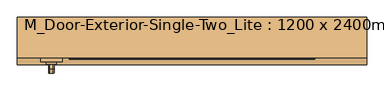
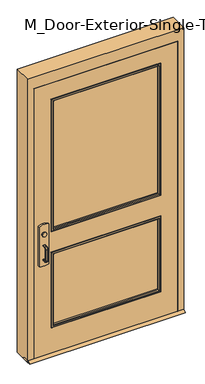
"""IFC4 building model written with IfcOpenShell, lengths in millimetres: door geometry, M_Door-Exterior-Single-Two_Lite : 1200 x 2400mm."""

from ifc_helpers import new_model, si_unit, point, frame, frame_2d, origin, place, context, project, spatial, polyline, circle_curve, ellipse_curve, trimmed, segment, composite_curve, outline, extrude, faceted_brep, source, transform, mapped, element, save
from ifc_brep_helpers import plane_surface, cylinder_surface, revolved_surface, advanced_brep


def m_door_exterior_single_two_lite_1200_x_2400mm_6ab66c40(model_context):
    return source(origin(), model_context, "Body", "SolidModel", [
        extrude(outline(polyline([(-111.35, 15.0), (-85.95, 0.0), (-181.75, 0.0), (-156.35, 15.0), (-111.35, 15.0)])), frame((-650.0, 0.0, 0.0), z_axis=(1.0, 0.0, 0.0), x_axis=(0.0, 1.0, 0.0)), (0.0, 0.0, 1.0), 1300.0),
        extrude(outline(polyline([(198.95, -73.25), (198.95, -79.6), (-492.05, -79.6), (-492.05, -73.25), (198.95, -73.25)])), frame((0.0, 0.0, 974.6), z_axis=(0.0, 0.0, 1.0), x_axis=(1.0, 0.0, 0.0)), (0.0, 0.0, 1.0), 50.8),
        advanced_brep(
        [(-555.55, -79.6, 1025.4), (-492.05, -79.6, 1025.4), (544.45, -79.6, 1025.4), (544.45, -79.6, 974.6), (-492.05, -79.6, 974.6), (-555.55, -79.6, 974.6), (544.45, -111.35, 1025.4), (-492.05, -111.35, 1025.4), (-492.05, -111.35, 1088.9), (-511.1, -111.35, 1107.95), (-536.5, -111.35, 1107.95), (-555.55, -111.35, 1088.9), (-555.55, -111.35, 911.1), (-536.5, -111.35, 892.05), (-511.1, -111.35, 892.05), (-492.05, -111.35, 911.1), (-492.05, -111.35, 974.6), (544.45, -111.35, 974.6), (-555.55, -82.7752467, 1025.4), (-492.05, -82.7752467, 1025.4), (-555.55, -82.7752467, 974.6), (-555.55, -87.7854269, 911.1), (-555.55, -87.7854269, 1088.9), (-492.05, -82.7752467, 974.6), (-492.05, -87.7854269, 1088.9), (-492.05, -87.7854269, 911.1), (-511.1, -89.288481, 1107.95), (-536.5, -89.288481, 1107.95), (-536.5, -89.288481, 892.05), (-511.1, -89.288481, 892.05)],
        [
            (0, 1),
            (1, 2),
            (2, 3),
            (3, 4),
            (4, 5),
            (5, 0),
            (6, 7),
            (7, 8),
            (8, 9, circle_curve(frame((-511.1, -111.35, 1088.9), z_axis=(0.0, -1.0, 0.0), x_axis=(1.0, 0.0, 0.0)), 19.05)),
            (9, 10),
            (10, 11, circle_curve(frame((-536.5, -111.35, 1088.9), z_axis=(0.0, -1.0, 0.0), x_axis=(1.0, 0.0, 0.0)), 19.05)),
            (11, 12),
            (12, 13, circle_curve(frame((-536.5, -111.35, 911.1), z_axis=(0.0, -1.0, 0.0), x_axis=(1.0, 0.0, 0.0)), 19.05)),
            (13, 14),
            (14, 15, circle_curve(frame((-511.1, -111.35, 911.1), z_axis=(0.0, -1.0, 0.0), x_axis=(1.0, 0.0, 0.0)), 19.05)),
            (15, 16),
            (16, 17),
            (17, 6),
            (0, 18),
            (18, 19),
            (19, 7),
            (6, 2),
            (5, 20),
            (20, 21),
            (21, 12),
            (11, 22),
            (22, 18),
            (16, 23),
            (23, 20),
            (3, 17),
            (19, 24),
            (24, 8),
            (15, 25),
            (25, 23),
            (9, 26),
            (26, 27),
            (27, 10),
            (13, 28),
            (28, 29),
            (29, 14),
            (29, 25, ellipse_curve(frame((-511.1, -87.7854269, 911.1), z_axis=(0.0, -0.9969018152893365, 0.07865602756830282), x_axis=(0.0, 0.07865602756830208, 0.9969018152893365)), 19.1092038, 19.05)),
            (24, 26, ellipse_curve(frame((-511.1, -87.7854269, 1088.9), z_axis=(0.0, -0.9969018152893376, -0.07865602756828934), x_axis=(0.0, 0.078656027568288, -0.9969018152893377)), 19.1092038, 19.05)),
            (27, 22, ellipse_curve(frame((-536.5, -87.7854269, 1088.9), z_axis=(0.0, -0.9969018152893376, -0.07865602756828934), x_axis=(0.0, 0.078656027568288, -0.9969018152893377)), 19.1092038, 19.05)),
            (21, 28, ellipse_curve(frame((-536.5, -87.7854269, 911.1), z_axis=(0.0, -0.9969018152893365, 0.07865602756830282), x_axis=(0.0, 0.07865602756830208, 0.9969018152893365)), 19.1092038, 19.05)),
        ],
        [
            plane_surface(frame((-555.55, -79.6, 1025.4), z_axis=(0.0, 1.0, 0.0), x_axis=(-1.0, 0.0, 0.0))),
            plane_surface(frame((-555.55, -111.35, 1025.4), z_axis=(0.0, -1.0, 0.0), x_axis=(1.0, 0.0, 0.0))),
            plane_surface(frame((544.45, -79.6, 1025.4), z_axis=(0.0, 0.0, 1.0), x_axis=(0.0, -1.0, 0.0))),
            plane_surface(frame((-555.55, -79.6, 1025.4), z_axis=(-1.0, 0.0, 0.0), x_axis=(0.0, -1.0, 0.0))),
            plane_surface(frame((-555.55, -79.6, 974.6), z_axis=(0.0, 0.0, -1.0), x_axis=(0.0, -1.0, 0.0))),
            plane_surface(frame((544.45, -79.6, 974.6), z_axis=(1.0, 0.0, 0.0), x_axis=(0.0, -1.0, 0.0))),
            plane_surface(frame((-492.05, -82.7752467, 911.1), z_axis=(1.0, 0.0, 0.0), x_axis=(0.0, -1.0, 0.0))),
            plane_surface(frame((-511.1, -82.7752467, 1107.95), z_axis=(0.0, 0.0, 1.0), x_axis=(0.0, -1.0, 0.0))),
            plane_surface(frame((-536.5, -82.7752467, 892.05), z_axis=(0.0, 0.0, -1.0), x_axis=(0.0, -1.0, 0.0))),
            cylinder_surface(frame((-511.1, -111.35, 911.1), z_axis=(0.0, 1.0, 0.0), x_axis=(1.0, 0.0, 0.0)), 19.05),
            cylinder_surface(frame((-511.1, -111.35, 1088.9), z_axis=(0.0, 1.0, 0.0), x_axis=(1.0, 0.0, 0.0)), 19.05),
            cylinder_surface(frame((-536.5, -111.35, 1088.9), z_axis=(0.0, 1.0, 0.0), x_axis=(1.0, 0.0, 0.0)), 19.05),
            cylinder_surface(frame((-536.5, -111.35, 911.1), z_axis=(0.0, 1.0, 0.0), x_axis=(1.0, 0.0, 0.0)), 19.05),
            plane_surface(frame((-492.05, -82.7752467, 1025.4), z_axis=(0.0, 0.9969018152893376, 0.07865602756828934), x_axis=(-1.0, 0.0, 0.0))),
            plane_surface(frame((-492.05, -89.288481, 892.05), z_axis=(0.0, 0.9969018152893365, -0.07865602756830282), x_axis=(-1.0, 0.0, 0.0))),
        ],
        [
            (0, [[1, 2, 3, 4, 5, 6]]),
            (1, [[7, 8, 9, 10, 11, 12, 13, 14, 15, 16, 17, 18]]),
            (2, [[-2, -1, 19, 20, 21, -7, 22]]),
            (3, [[23, 24, 25, -12, 26, 27, -19, -6]]),
            (4, [[-17, 28, 29, -23, -5, -4, 30]]),
            (5, [[-22, -18, -30, -3]]),
            (6, [[-21, 31, 32, -8]]),
            (6, [[33, 34, -28, -16]]),
            (7, [[35, 36, 37, -10]]),
            (8, [[38, 39, 40, -14]]),
            (9, [[-40, 41, -33, -15]]),
            (10, [[-32, 42, -35, -9]]),
            (11, [[-37, 43, -26, -11]]),
            (12, [[-25, 44, -38, -13]]),
            (13, [[-27, -43, -36, -42, -31, -20]]),
            (14, [[-29, -34, -41, -39, -44, -24]]),
        ],
    ),
        advanced_brep(
        [(-533.8, -171.35, 1001.190625), (-530.228125, -171.35, 1004.7625), (-517.371875, -171.35, 1004.7625), (-513.8, -171.35, 1001.190625), (-513.8, -171.35, 998.8090406), (-517.3715406, -171.35, 995.2375), (-530.228125, -171.35, 995.2375), (-533.8, -171.35, 998.809375), (-533.8, -171.35, 874.609375), (-533.8, -171.35, 876.990625), (-530.228125, -171.35, 880.5625), (-517.3715406, -171.35, 880.5625), (-513.8, -171.35, 876.9909594), (-513.8, -171.35, 874.609375), (-517.371875, -171.35, 871.0375), (-530.228125, -171.35, 871.0375), (-533.8, -196.75, 998.809375), (-533.8, -208.259375, 987.3), (-533.8, -208.259375, 888.5), (-533.8, -196.75, 876.990625), (-533.8, -196.75, 874.609375), (-533.8, -210.640625, 888.5), (-533.8, -210.640625, 987.3), (-533.8, -196.75, 1001.190625), (-530.228125, -196.75, 995.2375), (-517.3715406, -196.75, 995.2375), (-513.8, -196.75, 998.8090406), (-513.8, -196.75, 1001.190625), (-513.8, -210.640625, 987.3), (-513.8, -210.640625, 888.5), (-513.8, -196.75, 874.609375), (-513.8, -196.75, 876.9909594), (-513.8, -208.2590406, 888.5), (-513.8, -208.2590406, 987.3), (-517.371875, -196.75, 1004.7625), (-530.228125, -196.75, 1004.7625), (-530.228125, -204.6875, 987.3), (-517.3715406, -204.6875, 987.3), (-517.371875, -214.2125, 987.3), (-530.228125, -214.2125, 987.3), (-530.228125, -204.6875, 888.5), (-517.3715406, -204.6875, 888.5), (-517.371875, -214.2125, 888.5), (-530.228125, -214.2125, 888.5), (-530.228125, -196.75, 880.5625), (-517.3715406, -196.75, 880.5625), (-517.371875, -196.75, 871.0375), (-530.228125, -196.75, 871.0375)],
        [
            (0, 1, circle_curve(frame((-530.228125, -171.35, 1001.190625), z_axis=(0.0, 1.0, 0.0), x_axis=(0.0, 0.0, 1.0)), 3.571875)),
            (1, 2),
            (2, 3, circle_curve(frame((-517.371875, -171.35, 1001.190625), z_axis=(0.0, 1.0, 0.0), x_axis=(0.0, 0.0, 1.0)), 3.571875)),
            (3, 4),
            (4, 5, circle_curve(frame((-517.3715406, -171.35, 998.8090406), z_axis=(0.0, 1.0, 0.0), x_axis=(0.0, 0.0, 1.0)), 3.5715406)),
            (5, 6),
            (6, 7, circle_curve(frame((-530.228125, -171.35, 998.809375), z_axis=(0.0, 1.0, 0.0), x_axis=(0.0, 0.0, 1.0)), 3.571875)),
            (7, 0),
            (8, 9),
            (9, 10, circle_curve(frame((-530.228125, -171.35, 876.990625), z_axis=(0.0, 1.0, 0.0), x_axis=(0.0, 0.0, -1.0)), 3.571875)),
            (10, 11),
            (11, 12, circle_curve(frame((-517.3715406, -171.35, 876.9909594), z_axis=(0.0, 1.0, 0.0), x_axis=(0.0, 0.0, -1.0)), 3.5715406)),
            (12, 13),
            (13, 14, circle_curve(frame((-517.371875, -171.35, 874.609375), z_axis=(0.0, 1.0, 0.0), x_axis=(0.0, 0.0, -1.0)), 3.571875)),
            (14, 15),
            (15, 8, circle_curve(frame((-530.228125, -171.35, 874.609375), z_axis=(0.0, 1.0, 0.0), x_axis=(0.0, 0.0, -1.0)), 3.571875)),
            (7, 16),
            (16, 17, circle_curve(frame((-533.8, -196.75, 987.3), z_axis=(1.0, 0.0, 0.0), x_axis=(0.0, 0.0, 1.0)), 11.509375)),
            (17, 18),
            (18, 19, circle_curve(frame((-533.8, -196.75, 888.5), z_axis=(1.0, 0.0, 0.0), x_axis=(0.0, -1.0, 0.0)), 11.509375)),
            (19, 9),
            (8, 20),
            (20, 21, circle_curve(frame((-533.8, -196.75, 888.5), z_axis=(-1.0, 0.0, 0.0), x_axis=(0.0, -1.0, 0.0)), 13.890625)),
            (21, 22),
            (22, 23, circle_curve(frame((-533.8, -196.75, 987.3), z_axis=(-1.0, 0.0, 0.0), x_axis=(0.0, 0.0, 1.0)), 13.890625)),
            (23, 0),
            (6, 24),
            (24, 16, circle_curve(frame((-530.228125, -196.75, 998.809375), z_axis=(0.0, 1.0, 0.0), x_axis=(0.0, 0.0, 1.0)), 3.571875)),
            (5, 25),
            (25, 24),
            (4, 26),
            (26, 25, circle_curve(frame((-517.3715406, -196.75, 998.8090406), z_axis=(0.0, 1.0, 0.0), x_axis=(0.0, 0.0, 1.0)), 3.5715406)),
            (3, 27),
            (27, 28, circle_curve(frame((-513.8, -196.75, 987.3), z_axis=(1.0, 0.0, 0.0), x_axis=(0.0, 0.0, 1.0)), 13.890625)),
            (28, 29),
            (29, 30, circle_curve(frame((-513.8, -196.75, 888.5), z_axis=(1.0, 0.0, 0.0), x_axis=(0.0, -1.0, 0.0)), 13.890625)),
            (30, 13),
            (12, 31),
            (31, 32, circle_curve(frame((-513.8, -196.75, 888.5), z_axis=(-1.0, 0.0, 0.0), x_axis=(0.0, -1.0, 0.0)), 11.5090406)),
            (32, 33),
            (33, 26, circle_curve(frame((-513.8, -196.75, 987.3), z_axis=(-1.0, 0.0, 0.0), x_axis=(0.0, 0.0, 1.0)), 11.5090406)),
            (2, 34),
            (34, 27, circle_curve(frame((-517.371875, -196.75, 1001.190625), z_axis=(0.0, 1.0, 0.0), x_axis=(0.0, 0.0, 1.0)), 3.571875)),
            (1, 35),
            (35, 34),
            (23, 35, circle_curve(frame((-530.228125, -196.75, 1001.190625), z_axis=(0.0, 1.0, 0.0), x_axis=(0.0, 0.0, 1.0)), 3.571875)),
            (36, 17, circle_curve(frame((-530.228125, -208.259375, 987.3), z_axis=(0.0, 0.0, 1.0), x_axis=(0.0, -1.0, 0.0)), 3.571875)),
            (24, 36, circle_curve(frame((-530.228125, -196.75, 987.3), z_axis=(1.0, 0.0, 0.0), x_axis=(0.0, 0.0, 1.0)), 7.9375)),
            (37, 36),
            (25, 37, circle_curve(frame((-517.3715406, -196.75, 987.3), z_axis=(1.0, 0.0, 0.0), x_axis=(0.0, 0.0, 1.0)), 7.9375)),
            (33, 37, circle_curve(frame((-517.3715406, -208.2590406, 987.3), z_axis=(0.0, 0.0, 1.0), x_axis=(0.0, -1.0, 0.0)), 3.5715406)),
            (38, 28, circle_curve(frame((-517.371875, -210.640625, 987.3), z_axis=(0.0, 0.0, 1.0), x_axis=(0.0, -1.0, 0.0)), 3.571875)),
            (34, 38, circle_curve(frame((-517.371875, -196.75, 987.3), z_axis=(1.0, 0.0, 0.0), x_axis=(0.0, 0.0, 1.0)), 17.4625)),
            (39, 38),
            (35, 39, circle_curve(frame((-530.228125, -196.75, 987.3), z_axis=(1.0, 0.0, 0.0), x_axis=(0.0, 0.0, 1.0)), 17.4625)),
            (22, 39, circle_curve(frame((-530.228125, -210.640625, 987.3), z_axis=(0.0, 0.0, 1.0), x_axis=(0.0, -1.0, 0.0)), 3.571875)),
            (36, 40),
            (40, 18, circle_curve(frame((-530.228125, -208.259375, 888.5), z_axis=(0.0, 0.0, 1.0), x_axis=(0.0, -1.0, 0.0)), 3.571875)),
            (37, 41),
            (41, 40),
            (32, 41, circle_curve(frame((-517.3715406, -208.2590406, 888.5), z_axis=(0.0, 0.0, 1.0), x_axis=(0.0, -1.0, 0.0)), 3.5715406)),
            (38, 42),
            (42, 29, circle_curve(frame((-517.371875, -210.640625, 888.5), z_axis=(0.0, 0.0, 1.0), x_axis=(0.0, -1.0, 0.0)), 3.571875)),
            (39, 43),
            (43, 42),
            (21, 43, circle_curve(frame((-530.228125, -210.640625, 888.5), z_axis=(0.0, 0.0, 1.0), x_axis=(0.0, -1.0, 0.0)), 3.571875)),
            (44, 19, circle_curve(frame((-530.228125, -196.75, 876.990625), z_axis=(0.0, -1.0, 0.0), x_axis=(0.0, 0.0, -1.0)), 3.571875)),
            (40, 44, circle_curve(frame((-530.228125, -196.75, 888.5), z_axis=(1.0, 0.0, 0.0), x_axis=(0.0, -1.0, 0.0)), 7.9375)),
            (45, 44),
            (41, 45, circle_curve(frame((-517.3715406, -196.75, 888.5), z_axis=(1.0, 0.0, 0.0), x_axis=(0.0, -1.0, 0.0)), 7.9375)),
            (31, 45, circle_curve(frame((-517.3715406, -196.75, 876.9909594), z_axis=(0.0, -1.0, 0.0), x_axis=(0.0, 0.0, -1.0)), 3.5715406)),
            (46, 30, circle_curve(frame((-517.371875, -196.75, 874.609375), z_axis=(0.0, -1.0, 0.0), x_axis=(0.0, 0.0, -1.0)), 3.571875)),
            (42, 46, circle_curve(frame((-517.371875, -196.75, 888.5), z_axis=(1.0, 0.0, 0.0), x_axis=(0.0, -1.0, 0.0)), 17.4625)),
            (47, 46),
            (43, 47, circle_curve(frame((-530.228125, -196.75, 888.5), z_axis=(1.0, 0.0, 0.0), x_axis=(0.0, -1.0, 0.0)), 17.4625)),
            (20, 47, circle_curve(frame((-530.228125, -196.75, 874.609375), z_axis=(0.0, -1.0, 0.0), x_axis=(0.0, 0.0, -1.0)), 3.571875)),
            (44, 10),
            (45, 11),
            (46, 14),
            (47, 15),
        ],
        [
            plane_surface(frame((-523.8, -171.35, 1000.0), z_axis=(0.0, 1.0, 0.0), x_axis=(1.0, 0.0, 0.0))),
            plane_surface(frame((-523.8, -171.35, 875.8), z_axis=(0.0, 1.0, 0.0), x_axis=(1.0, 0.0, 0.0))),
            plane_surface(frame((-533.8, -171.35, 1001.190625), z_axis=(-1.0, 0.0, 0.0), x_axis=(0.0, -1.0, 0.0))),
            cylinder_surface(frame((-530.228125, -171.35, 998.809375), z_axis=(0.0, 1.0, 0.0), x_axis=(0.0, 0.0, 1.0)), 3.571875),
            plane_surface(frame((-530.228125, -171.35, 995.2375), z_axis=(0.0, 0.0, -1.0), x_axis=(0.0, -1.0, 0.0))),
            cylinder_surface(frame((-517.3715406, -171.35, 998.8090406), z_axis=(0.0, 1.0, 0.0), x_axis=(0.0, 0.0, 1.0)), 3.5715406),
            plane_surface(frame((-513.8, -171.35, 998.8090406), z_axis=(1.0, 0.0, 0.0), x_axis=(0.0, -1.0, 0.0))),
            cylinder_surface(frame((-517.371875, -171.35, 1001.190625), z_axis=(0.0, 1.0, 0.0), x_axis=(0.0, 0.0, 1.0)), 3.571875),
            plane_surface(frame((-517.371875, -171.35, 1004.7625), z_axis=(0.0, 0.0, 1.0), x_axis=(0.0, -1.0, 0.0))),
            cylinder_surface(frame((-530.228125, -171.35, 1001.190625), z_axis=(0.0, 1.0, 0.0), x_axis=(0.0, 0.0, 1.0)), 3.571875),
            revolved_surface(trimmed(ellipse_curve(frame((-530.228125, -196.75, 998.809375), z_axis=(0.0, -1.0, 0.0), x_axis=(0.0, 0.0, 1.0)), 3.571875, 3.571875), [point((-533.8, -196.75, 998.809375))], [point((-530.228125, -196.75, 995.2375))], True, "CARTESIAN"), (-523.8, -196.75, 987.3), (-1.0, 0.0, 0.0)),
            revolved_surface(polyline([(-530.228125, -196.75, 995.2375), (-517.3715406, -196.75, 995.2375)]), (-523.8, -196.75, 987.3), (-1.0, 0.0, 0.0)),
            revolved_surface(trimmed(ellipse_curve(frame((-517.3715406, -196.75, 998.8090406), z_axis=(0.0, -1.0, 0.0), x_axis=(0.0, 0.0, 1.0)), 3.5715406, 3.5715406), [point((-517.3715406, -196.75, 995.2375))], [point((-513.8, -196.75, 998.8090406))], True, "CARTESIAN"), (-523.8, -196.75, 987.3), (-1.0, 0.0, 0.0)),
            revolved_surface(trimmed(ellipse_curve(frame((-517.371875, -196.75, 1001.190625), z_axis=(0.0, -1.0, 0.0), x_axis=(0.0, 0.0, 1.0)), 3.571875, 3.571875), [point((-513.8, -196.75, 1001.190625))], [point((-517.371875, -196.75, 1004.7625))], True, "CARTESIAN"), (-523.8, -196.75, 987.3), (-1.0, 0.0, 0.0)),
            cylinder_surface(frame((-523.8, -196.75, 987.3), z_axis=(-1.0, 0.0, 0.0), x_axis=(0.0, 0.0, 1.0)), 17.4625),
            revolved_surface(trimmed(ellipse_curve(frame((-530.228125, -196.75, 1001.190625), z_axis=(0.0, -1.0, 0.0), x_axis=(0.0, 0.0, 1.0)), 3.571875, 3.571875), [point((-530.228125, -196.75, 1004.7625))], [point((-533.8, -196.75, 1001.190625))], True, "CARTESIAN"), (-523.8, -196.75, 987.3), (-1.0, 0.0, 0.0)),
            cylinder_surface(frame((-530.228125, -208.259375, 987.3), z_axis=(0.0, 0.0, 1.0), x_axis=(0.0, -1.0, 0.0)), 3.571875),
            plane_surface(frame((-530.228125, -204.6875, 987.3), z_axis=(0.0, 1.0, 0.0), x_axis=(0.0, 0.0, -1.0))),
            cylinder_surface(frame((-517.3715406, -208.2590406, 987.3), z_axis=(0.0, 0.0, 1.0), x_axis=(0.0, -1.0, 0.0)), 3.5715406),
            cylinder_surface(frame((-517.371875, -210.640625, 987.3), z_axis=(0.0, 0.0, 1.0), x_axis=(0.0, -1.0, 0.0)), 3.571875),
            plane_surface(frame((-517.371875, -214.2125, 987.3), z_axis=(0.0, -1.0, 0.0), x_axis=(0.0, 0.0, -1.0))),
            cylinder_surface(frame((-530.228125, -210.640625, 987.3), z_axis=(0.0, 0.0, 1.0), x_axis=(0.0, -1.0, 0.0)), 3.571875),
            revolved_surface(trimmed(ellipse_curve(frame((-530.228125, -208.259375, 888.5), z_axis=(0.0, 0.0, -1.0), x_axis=(0.0, -1.0, 0.0)), 3.571875, 3.571875), [point((-533.8, -208.259375, 888.5))], [point((-530.228125, -204.6875, 888.5))], True, "CARTESIAN"), (-523.8, -196.75, 888.5), (-1.0, 0.0, 0.0)),
            revolved_surface(polyline([(-530.228125, -204.6875, 888.5), (-517.3715406, -204.6875, 888.5)]), (-523.8, -196.75, 888.5), (-1.0, 0.0, 0.0)),
            revolved_surface(trimmed(ellipse_curve(frame((-517.3715406, -208.2590406, 888.5), z_axis=(0.0, 0.0, -1.0), x_axis=(0.0, -1.0, 0.0)), 3.5715406, 3.5715406), [point((-517.3715406, -204.6875, 888.5))], [point((-513.8, -208.2590406, 888.5))], True, "CARTESIAN"), (-523.8, -196.75, 888.5), (-1.0, 0.0, 0.0)),
            revolved_surface(trimmed(ellipse_curve(frame((-517.371875, -210.640625, 888.5), z_axis=(0.0, 0.0, -1.0), x_axis=(0.0, -1.0, 0.0)), 3.571875, 3.571875), [point((-513.8, -210.640625, 888.5))], [point((-517.371875, -214.2125, 888.5))], True, "CARTESIAN"), (-523.8, -196.75, 888.5), (-1.0, 0.0, 0.0)),
            cylinder_surface(frame((-523.8, -196.75, 888.5), z_axis=(-1.0, 0.0, 0.0), x_axis=(0.0, -1.0, 0.0)), 17.4625),
            revolved_surface(trimmed(ellipse_curve(frame((-530.228125, -210.640625, 888.5), z_axis=(0.0, 0.0, -1.0), x_axis=(0.0, -1.0, 0.0)), 3.571875, 3.571875), [point((-530.228125, -214.2125, 888.5))], [point((-533.8, -210.640625, 888.5))], True, "CARTESIAN"), (-523.8, -196.75, 888.5), (-1.0, 0.0, 0.0)),
            cylinder_surface(frame((-530.228125, -196.75, 876.990625), z_axis=(0.0, -1.0, 0.0), x_axis=(0.0, 0.0, -1.0)), 3.571875),
            plane_surface(frame((-530.228125, -196.75, 880.5625), z_axis=(0.0, 0.0, 1.0), x_axis=(0.0, 1.0, 0.0))),
            cylinder_surface(frame((-517.3715406, -196.75, 876.9909594), z_axis=(0.0, -1.0, 0.0), x_axis=(0.0, 0.0, -1.0)), 3.5715406),
            cylinder_surface(frame((-517.371875, -196.75, 874.609375), z_axis=(0.0, -1.0, 0.0), x_axis=(0.0, 0.0, -1.0)), 3.571875),
            plane_surface(frame((-517.371875, -196.75, 871.0375), z_axis=(0.0, 0.0, -1.0), x_axis=(0.0, 1.0, 0.0))),
            cylinder_surface(frame((-530.228125, -196.75, 874.609375), z_axis=(0.0, -1.0, 0.0), x_axis=(0.0, 0.0, -1.0)), 3.571875),
        ],
        [
            (0, [[1, 2, 3, 4, 5, 6, 7, 8]]),
            (1, [[9, 10, 11, 12, 13, 14, 15, 16]]),
            (2, [[17, 18, 19, 20, 21, -9, 22, 23, 24, 25, 26, -8]]),
            (3, [[27, 28, -17, -7]]),
            (4, [[29, 30, -27, -6]]),
            (5, [[31, 32, -29, -5]]),
            (6, [[33, 34, 35, 36, 37, -13, 38, 39, 40, 41, -31, -4]]),
            (7, [[42, 43, -33, -3]]),
            (8, [[44, 45, -42, -2]]),
            (9, [[-26, 46, -44, -1]]),
            (10, [[47, -18, -28, 48]]),
            (11, [[49, -48, -30, 50]]),
            (12, [[51, -50, -32, -41]]),
            (13, [[52, -34, -43, 53]]),
            (14, [[54, -53, -45, 55]]),
            (15, [[56, -55, -46, -25]]),
            (16, [[57, 58, -19, -47]]),
            (17, [[59, 60, -57, -49]]),
            (18, [[-40, 61, -59, -51]]),
            (19, [[62, 63, -35, -52]]),
            (20, [[64, 65, -62, -54]]),
            (21, [[-24, 66, -64, -56]]),
            (22, [[67, -20, -58, 68]]),
            (23, [[69, -68, -60, 70]]),
            (24, [[71, -70, -61, -39]]),
            (25, [[72, -36, -63, 73]]),
            (26, [[74, -73, -65, 75]]),
            (27, [[76, -75, -66, -23]]),
            (28, [[77, -10, -21, -67]]),
            (29, [[78, -11, -77, -69]]),
            (30, [[-38, -12, -78, -71]]),
            (31, [[79, -14, -37, -72]]),
            (32, [[80, -15, -79, -74]]),
            (33, [[-22, -16, -80, -76]]),
        ],
    ),
        extrude(outline(composite_curve([segment(trimmed(circle_curve(frame_2d((1098.8, -523.8)), 19.0), [point((1098.8, -542.8))], [point((1098.8, -504.8))], False, "CARTESIAN"), True, "CONTINUOUS"), segment(trimmed(circle_curve(frame_2d((1098.8, -523.8)), 19.0), [point((1098.8, -504.8))], [point((1098.8, -542.8))], False, "CARTESIAN"), True, "CONTINUOUS")], self_intersect=False)), frame((0.0, -180.08125, 0.0), z_axis=(0.0, 1.0, 0.0), x_axis=(0.0, 0.0, 1.0)), (0.0, 0.0, 1.0), 8.73125),
        extrude(outline(composite_curve([segment(trimmed(circle_curve(frame_2d((1094.2338574, -523.8)), 90.1286291), [point((1175.0, -483.8))], [point((1175.0, -563.8))], False, "CARTESIAN"), True, "CONTINUOUS"), segment(polyline([(1175.0, -563.8), (825.0, -563.8)]), True, "CONTINUOUS"), segment(trimmed(circle_curve(frame_2d((905.7661426, -523.8)), 90.1286291), [point((825.0, -563.8))], [point((825.0, -483.8))], False, "CARTESIAN"), True, "CONTINUOUS"), segment(polyline([(825.0, -483.8), (1175.0, -483.8)]), True, "CONTINUOUS")], self_intersect=False)), frame((0.0, -171.35, 0.0), z_axis=(0.0, 1.0, 0.0), x_axis=(0.0, 0.0, 1.0)), (0.0, 0.0, 1.0), 15.0),
        faceted_brep([(600.0, -106.5875, 0.0), (584.125, -106.5875, 0.0), (584.125, -55.5625, 0.0), (600.0, -55.5625, 0.0), (600.0, -6.35, 0.0), (650.0, -6.35, 0.0), (650.0, -156.35, 0.0), (600.0, -156.35, 0.0), (600.0, -156.35, 2400.0), (600.0, -106.5875, 2400.0), (650.0, -156.35, 2500.0), (-650.0, -156.35, 2500.0), (-650.0, -156.35, 0.0), (-600.0, -156.35, 0.0), (-600.0, -156.35, 2400.0), (650.0, -6.35, 2500.0), (600.0, -6.35, 2400.0), (-600.0, -6.35, 2400.0), (-600.0, -6.35, 0.0), (-650.0, -6.35, 0.0), (-650.0, -6.35, 2500.0), (600.0, -55.5625, 2400.0), (584.125, -55.5625, 2384.125), (-584.125, -55.5625, 2384.125), (-584.125, -55.5625, 0.0), (-600.0, -55.5625, 0.0), (-600.0, -55.5625, 2400.0), (584.125, -106.5875, 2384.125), (-600.0, -106.5875, 2400.0), (-600.0, -106.5875, 0.0), (-584.125, -106.5875, 0.0), (-584.125, -106.5875, 2384.125)], [[[0, 1, 2, 3, 4, 5, 6, 7]], [[7, 8, 9, 0]], [[6, 10, 11, 12, 13, 14, 8, 7]], [[5, 15, 10, 6]], [[4, 16, 17, 18, 19, 20, 15, 5]], [[3, 21, 16, 4]], [[2, 22, 23, 24, 25, 26, 21, 3]], [[1, 27, 22, 2]], [[0, 9, 28, 29, 30, 31, 27, 1]], [[8, 14, 28, 9]], [[16, 21, 26, 17]], [[22, 27, 31, 23]], [[12, 19, 18, 25, 24, 30, 29, 13]], [[13, 29, 28, 14]], [[11, 20, 19, 12]], [[17, 26, 25, 18]], [[23, 31, 30, 24]], [[15, 20, 11, 10]]]),
        extrude(outline(polyline([(2400.0, -600.0), (15.0, -600.0), (15.0, 600.0), (2400.0, 600.0), (2400.0, -600.0)]), holes=[polyline([(2250.0, -450.0), (2250.0, 450.0), (1100.0, 450.0), (1100.0, -450.0), (2250.0, -450.0)]), polyline([(900.0, -450.0), (900.0, 450.0), (250.0, 450.0), (250.0, -450.0), (900.0, -450.0)])]), frame((0.0, -156.35, 0.0), z_axis=(0.0, 1.0, 0.0), x_axis=(0.0, 0.0, 1.0)), (0.0, 0.0, 1.0), 45.0),
        extrude(outline(polyline([(450.0, -123.85), (450.0, -143.85), (-450.0, -143.85), (-450.0, -123.85), (450.0, -123.85)])), frame((0.0, 0.0, 1100.0), z_axis=(0.0, 0.0, 1.0), x_axis=(1.0, 0.0, 0.0)), (0.0, 0.0, 1.0), 1150.0),
        extrude(outline(polyline([(450.0, -123.85), (450.0, -143.85), (-450.0, -143.85), (-450.0, -123.85), (450.0, -123.85)])), frame((0.0, 0.0, 250.0), z_axis=(0.0, 0.0, 1.0), x_axis=(1.0, 0.0, 0.0)), (0.0, 0.0, 1.0), 650.0),
        advanced_brep(
        [(450.0, -123.85, 900.0), (450.0, -123.85, 250.0), (450.0, -111.35, 250.0), (450.0, -111.35, 900.0), (438.0, -110.35, 888.0), (438.0, -110.35, 262.0), (438.0, -123.85, 262.0), (438.0, -123.85, 888.0), (443.0, -105.35, 893.0), (443.0, -105.35, 257.0), (458.0, -107.35, 908.0), (458.0, -107.35, 242.0), (456.0, -105.35, 244.0), (456.0, -105.35, 906.0), (458.0, -111.35, 908.0), (458.0, -111.35, 242.0), (-450.0, -123.85, 250.0), (-450.0, -111.35, 250.0), (-438.0, -110.35, 262.0), (-438.0, -123.85, 262.0), (-443.0, -105.35, 257.0), (-458.0, -107.35, 242.0), (-456.0, -105.35, 244.0), (-458.0, -111.35, 242.0), (-450.0, -123.85, 900.0), (-450.0, -111.35, 900.0), (-438.0, -110.35, 888.0), (-438.0, -123.85, 888.0), (-443.0, -105.35, 893.0), (-458.0, -107.35, 908.0), (-456.0, -105.35, 906.0), (-458.0, -111.35, 908.0)],
        [
            (0, 1),
            (1, 2),
            (2, 3),
            (3, 0),
            (4, 5),
            (5, 6),
            (6, 7),
            (7, 4),
            (8, 9),
            (9, 5, ellipse_curve(frame((443.0, -110.35, 257.0), z_axis=(0.7071067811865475, 0.0, 0.7071067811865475), x_axis=(-0.7071067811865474, 0.0, 0.7071067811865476)), 7.0710678, 5.0)),
            (4, 8, ellipse_curve(frame((443.0, -110.35, 893.0), z_axis=(0.7071067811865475, 0.0, -0.7071067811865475), x_axis=(0.7071067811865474, 0.0, 0.7071067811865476)), 7.0710678, 5.0)),
            (10, 11),
            (11, 12, ellipse_curve(frame((456.0, -107.35, 244.0), z_axis=(0.7071067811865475, 0.0, 0.7071067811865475), x_axis=(-0.7071067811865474, 0.0, 0.7071067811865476)), 2.8284271, 2.0)),
            (12, 13),
            (13, 10, ellipse_curve(frame((456.0, -107.35, 906.0), z_axis=(0.7071067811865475, 0.0, -0.7071067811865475), x_axis=(0.7071067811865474, 0.0, 0.7071067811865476)), 2.8284271, 2.0)),
            (14, 15),
            (15, 11),
            (10, 14),
            (1, 16),
            (16, 17),
            (17, 2),
            (5, 18),
            (18, 19),
            (19, 6),
            (9, 20),
            (20, 18, ellipse_curve(frame((-443.0, -110.35, 257.0), z_axis=(0.7071067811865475, 0.0, -0.7071067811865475), x_axis=(0.7071067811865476, 0.0, 0.7071067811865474)), 7.0710678, 5.0)),
            (11, 21),
            (21, 22, ellipse_curve(frame((-456.0, -107.35, 244.0), z_axis=(0.7071067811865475, 0.0, -0.7071067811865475), x_axis=(0.7071067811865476, 0.0, 0.7071067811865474)), 2.8284271, 2.0)),
            (22, 12),
            (15, 23),
            (23, 21),
            (16, 24),
            (24, 25),
            (25, 17),
            (18, 26),
            (26, 27),
            (27, 19),
            (20, 28),
            (28, 26, ellipse_curve(frame((-443.0, -110.35, 893.0), z_axis=(-0.7071067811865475, 0.0, -0.7071067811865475), x_axis=(0.7071067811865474, 0.0, -0.7071067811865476)), 7.0710678, 5.0)),
            (21, 29),
            (29, 30, ellipse_curve(frame((-456.0, -107.35, 906.0), z_axis=(-0.7071067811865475, 0.0, -0.7071067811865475), x_axis=(0.7071067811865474, 0.0, -0.7071067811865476)), 2.8284271, 2.0)),
            (30, 22),
            (23, 31),
            (31, 29),
            (14, 31),
            (25, 3),
            (24, 0),
            (27, 7),
            (26, 4),
            (28, 8),
            (30, 13),
            (29, 10),
        ],
        [
            plane_surface(frame((450.0, -111.35, 900.0), z_axis=(1.0, 0.0, 0.0), x_axis=(0.0, 0.0, -1.0))),
            plane_surface(frame((438.0, -123.85, 888.0), z_axis=(-1.0, 0.0, 0.0), x_axis=(0.0, 0.0, -1.0))),
            cylinder_surface(frame((443.0, -110.35, 900.0), z_axis=(0.0, 0.0, 1.0), x_axis=(1.0, 0.0, 0.0)), 5.0),
            cylinder_surface(frame((456.0, -107.35, 900.0), z_axis=(0.0, 0.0, 1.0), x_axis=(1.0, 0.0, 0.0)), 2.0),
            plane_surface(frame((458.0, -107.35, 908.0), z_axis=(1.0, 0.0, 0.0), x_axis=(0.0, 0.0, -1.0))),
            plane_surface(frame((450.0, -111.35, 250.0), z_axis=(0.0, 0.0, -1.0), x_axis=(-1.0, 0.0, 0.0))),
            plane_surface(frame((438.0, -123.85, 262.0), z_axis=(0.0, 0.0, 1.0), x_axis=(-1.0, 0.0, 0.0))),
            cylinder_surface(frame((450.0, -110.35, 257.0), z_axis=(1.0, 0.0, 0.0), x_axis=(0.0, 0.0, -1.0)), 5.0),
            cylinder_surface(frame((450.0, -107.35, 244.0), z_axis=(1.0, 0.0, 0.0), x_axis=(0.0, 0.0, -1.0)), 2.0),
            plane_surface(frame((458.0, -107.35, 242.0), z_axis=(0.0, 0.0, -1.0), x_axis=(-1.0, 0.0, 0.0))),
            plane_surface(frame((-450.0, -111.35, 250.0), z_axis=(-1.0, 0.0, 0.0), x_axis=(0.0, 0.0, 1.0))),
            plane_surface(frame((-438.0, -123.85, 262.0), z_axis=(1.0, 0.0, 0.0), x_axis=(0.0, 0.0, 1.0))),
            cylinder_surface(frame((-443.0, -110.35, 250.0), z_axis=(0.0, 0.0, -1.0), x_axis=(-1.0, 0.0, 0.0)), 5.0),
            cylinder_surface(frame((-456.0, -107.35, 250.0), z_axis=(0.0, 0.0, -1.0), x_axis=(-1.0, 0.0, 0.0)), 2.0),
            plane_surface(frame((-458.0, -107.35, 242.0), z_axis=(-1.0, 0.0, 0.0), x_axis=(0.0, 0.0, 1.0))),
            plane_surface(frame((-458.0, -111.35, 908.0), z_axis=(0.0, -1.0, 0.0), x_axis=(1.0, 0.0, 0.0))),
            plane_surface(frame((-450.0, -111.35, 900.0), z_axis=(0.0, 0.0, 1.0), x_axis=(1.0, 0.0, 0.0))),
            plane_surface(frame((-450.0, -123.85, 900.0), z_axis=(0.0, -1.0, 0.0), x_axis=(1.0, 0.0, 0.0))),
            plane_surface(frame((-438.0, -123.85, 888.0), z_axis=(0.0, 0.0, -1.0), x_axis=(1.0, 0.0, 0.0))),
            cylinder_surface(frame((-450.0, -110.35, 893.0), z_axis=(-1.0, 0.0, 0.0), x_axis=(0.0, 0.0, 1.0)), 5.0),
            plane_surface(frame((-443.0, -105.35, 893.0), z_axis=(0.0, 1.0, 0.0), x_axis=(1.0, 0.0, 0.0))),
            cylinder_surface(frame((-450.0, -107.35, 906.0), z_axis=(-1.0, 0.0, 0.0), x_axis=(0.0, 0.0, 1.0)), 2.0),
            plane_surface(frame((-458.0, -107.35, 908.0), z_axis=(0.0, 0.0, 1.0), x_axis=(1.0, 0.0, 0.0))),
        ],
        [
            (0, [[1, 2, 3, 4]]),
            (1, [[5, 6, 7, 8]]),
            (2, [[9, 10, -5, 11]]),
            (3, [[12, 13, 14, 15]]),
            (4, [[16, 17, -12, 18]]),
            (5, [[19, 20, 21, -2]]),
            (6, [[22, 23, 24, -6]]),
            (7, [[25, 26, -22, -10]]),
            (8, [[27, 28, 29, -13]]),
            (9, [[30, 31, -27, -17]]),
            (10, [[32, 33, 34, -20]]),
            (11, [[35, 36, 37, -23]]),
            (12, [[38, 39, -35, -26]]),
            (13, [[40, 41, 42, -28]]),
            (14, [[43, 44, -40, -31]]),
            (15, [[-16, 45, -43, -30], [-3, -21, -34, 46]]),
            (16, [[47, -4, -46, -33]]),
            (17, [[-1, -47, -32, -19], [-7, -24, -37, 48]]),
            (18, [[49, -8, -48, -36]]),
            (19, [[50, -11, -49, -39]]),
            (20, [[-14, -29, -42, 51], [-9, -50, -38, -25]]),
            (21, [[52, -15, -51, -41]]),
            (22, [[-45, -18, -52, -44]]),
        ],
    ),
        advanced_brep(
        [(-450.0, -143.85, 900.0), (-450.0, -143.85, 250.0), (-450.0, -156.35, 250.0), (-450.0, -156.35, 900.0), (-438.0, -157.35, 888.0), (-438.0, -157.35, 262.0), (-438.0, -143.85, 262.0), (-438.0, -143.85, 888.0), (-443.0, -162.35, 893.0), (-443.0, -162.35, 257.0), (-458.0, -160.35, 908.0), (-458.0, -160.35, 242.0), (-456.0, -162.35, 244.0), (-456.0, -162.35, 906.0), (-458.0, -156.35, 908.0), (-458.0, -156.35, 242.0), (450.0, -143.85, 250.0), (450.0, -156.35, 250.0), (438.0, -157.35, 262.0), (438.0, -143.85, 262.0), (443.0, -162.35, 257.0), (458.0, -160.35, 242.0), (456.0, -162.35, 244.0), (458.0, -156.35, 242.0), (450.0, -143.85, 900.0), (450.0, -156.35, 900.0), (438.0, -157.35, 888.0), (438.0, -143.85, 888.0), (443.0, -162.35, 893.0), (458.0, -160.35, 908.0), (456.0, -162.35, 906.0), (458.0, -156.35, 908.0)],
        [
            (0, 1),
            (1, 2),
            (2, 3),
            (3, 0),
            (4, 5),
            (5, 6),
            (6, 7),
            (7, 4),
            (8, 9),
            (9, 5, ellipse_curve(frame((-443.0, -157.35, 257.0), z_axis=(-0.7071067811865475, 0.0, 0.7071067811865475), x_axis=(0.7071067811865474, 0.0, 0.7071067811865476)), 7.0710678, 5.0)),
            (4, 8, ellipse_curve(frame((-443.0, -157.35, 893.0), z_axis=(-0.7071067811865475, 0.0, -0.7071067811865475), x_axis=(-0.7071067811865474, 0.0, 0.7071067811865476)), 7.0710678, 5.0)),
            (10, 11),
            (11, 12, ellipse_curve(frame((-456.0, -160.35, 244.0), z_axis=(-0.7071067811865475, 0.0, 0.7071067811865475), x_axis=(0.7071067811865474, 0.0, 0.7071067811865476)), 2.8284271, 2.0)),
            (12, 13),
            (13, 10, ellipse_curve(frame((-456.0, -160.35, 906.0), z_axis=(-0.7071067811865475, 0.0, -0.7071067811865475), x_axis=(-0.7071067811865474, 0.0, 0.7071067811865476)), 2.8284271, 2.0)),
            (14, 15),
            (15, 11),
            (10, 14),
            (1, 16),
            (16, 17),
            (17, 2),
            (5, 18),
            (18, 19),
            (19, 6),
            (9, 20),
            (20, 18, ellipse_curve(frame((443.0, -157.35, 257.0), z_axis=(-0.7071067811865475, 0.0, -0.7071067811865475), x_axis=(-0.7071067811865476, 0.0, 0.7071067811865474)), 7.0710678, 5.0)),
            (11, 21),
            (21, 22, ellipse_curve(frame((456.0, -160.35, 244.0), z_axis=(-0.7071067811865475, 0.0, -0.7071067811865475), x_axis=(-0.7071067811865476, 0.0, 0.7071067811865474)), 2.8284271, 2.0)),
            (22, 12),
            (15, 23),
            (23, 21),
            (16, 24),
            (24, 25),
            (25, 17),
            (18, 26),
            (26, 27),
            (27, 19),
            (20, 28),
            (28, 26, ellipse_curve(frame((443.0, -157.35, 893.0), z_axis=(0.7071067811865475, 0.0, -0.7071067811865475), x_axis=(-0.7071067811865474, 0.0, -0.7071067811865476)), 7.0710678, 5.0)),
            (21, 29),
            (29, 30, ellipse_curve(frame((456.0, -160.35, 906.0), z_axis=(0.7071067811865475, 0.0, -0.7071067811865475), x_axis=(-0.7071067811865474, 0.0, -0.7071067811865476)), 2.8284271, 2.0)),
            (30, 22),
            (23, 31),
            (31, 29),
            (14, 31),
            (25, 3),
            (24, 0),
            (27, 7),
            (26, 4),
            (28, 8),
            (30, 13),
            (29, 10),
        ],
        [
            plane_surface(frame((-450.0, -156.35, 900.0), z_axis=(-1.0, 0.0, 0.0), x_axis=(0.0, 0.0, -1.0))),
            plane_surface(frame((-438.0, -143.85, 888.0), z_axis=(1.0, 0.0, 0.0), x_axis=(0.0, 0.0, -1.0))),
            cylinder_surface(frame((-443.0, -157.35, 900.0), z_axis=(0.0, 0.0, 1.0), x_axis=(-1.0, 0.0, 0.0)), 5.0),
            cylinder_surface(frame((-456.0, -160.35, 900.0), z_axis=(0.0, 0.0, 1.0), x_axis=(-1.0, 0.0, 0.0)), 2.0),
            plane_surface(frame((-458.0, -160.35, 908.0), z_axis=(-1.0, 0.0, 0.0), x_axis=(0.0, 0.0, -1.0))),
            plane_surface(frame((-450.0, -156.35, 250.0), z_axis=(0.0, 0.0, -1.0), x_axis=(1.0, 0.0, 0.0))),
            plane_surface(frame((-438.0, -143.85, 262.0), z_axis=(0.0, 0.0, 1.0), x_axis=(1.0, 0.0, 0.0))),
            cylinder_surface(frame((-450.0, -157.35, 257.0), z_axis=(-1.0, 0.0, 0.0), x_axis=(0.0, 0.0, -1.0)), 5.0),
            cylinder_surface(frame((-450.0, -160.35, 244.0), z_axis=(-1.0, 0.0, 0.0), x_axis=(0.0, 0.0, -1.0)), 2.0),
            plane_surface(frame((-458.0, -160.35, 242.0), z_axis=(0.0, 0.0, -1.0), x_axis=(1.0, 0.0, 0.0))),
            plane_surface(frame((450.0, -156.35, 250.0), z_axis=(1.0, 0.0, 0.0), x_axis=(0.0, 0.0, 1.0))),
            plane_surface(frame((438.0, -143.85, 262.0), z_axis=(-1.0, 0.0, 0.0), x_axis=(0.0, 0.0, 1.0))),
            cylinder_surface(frame((443.0, -157.35, 250.0), z_axis=(0.0, 0.0, -1.0), x_axis=(1.0, 0.0, 0.0)), 5.0),
            cylinder_surface(frame((456.0, -160.35, 250.0), z_axis=(0.0, 0.0, -1.0), x_axis=(1.0, 0.0, 0.0)), 2.0),
            plane_surface(frame((458.0, -160.35, 242.0), z_axis=(1.0, 0.0, 0.0), x_axis=(0.0, 0.0, 1.0))),
            plane_surface(frame((458.0, -156.35, 908.0), z_axis=(0.0, 1.0, 0.0), x_axis=(-1.0, 0.0, 0.0))),
            plane_surface(frame((450.0, -156.35, 900.0), z_axis=(0.0, 0.0, 1.0), x_axis=(-1.0, 0.0, 0.0))),
            plane_surface(frame((450.0, -143.85, 900.0), z_axis=(0.0, 1.0, 0.0), x_axis=(-1.0, 0.0, 0.0))),
            plane_surface(frame((438.0, -143.85, 888.0), z_axis=(0.0, 0.0, -1.0), x_axis=(-1.0, 0.0, 0.0))),
            cylinder_surface(frame((450.0, -157.35, 893.0), z_axis=(1.0, 0.0, 0.0), x_axis=(0.0, 0.0, 1.0)), 5.0),
            plane_surface(frame((443.0, -162.35, 893.0), z_axis=(0.0, -1.0, 0.0), x_axis=(-1.0, 0.0, 0.0))),
            cylinder_surface(frame((450.0, -160.35, 906.0), z_axis=(1.0, 0.0, 0.0), x_axis=(0.0, 0.0, 1.0)), 2.0),
            plane_surface(frame((458.0, -160.35, 908.0), z_axis=(0.0, 0.0, 1.0), x_axis=(-1.0, 0.0, 0.0))),
        ],
        [
            (0, [[1, 2, 3, 4]]),
            (1, [[5, 6, 7, 8]]),
            (2, [[9, 10, -5, 11]]),
            (3, [[12, 13, 14, 15]]),
            (4, [[16, 17, -12, 18]]),
            (5, [[19, 20, 21, -2]]),
            (6, [[22, 23, 24, -6]]),
            (7, [[25, 26, -22, -10]]),
            (8, [[27, 28, 29, -13]]),
            (9, [[30, 31, -27, -17]]),
            (10, [[32, 33, 34, -20]]),
            (11, [[35, 36, 37, -23]]),
            (12, [[38, 39, -35, -26]]),
            (13, [[40, 41, 42, -28]]),
            (14, [[43, 44, -40, -31]]),
            (15, [[-16, 45, -43, -30], [-3, -21, -34, 46]]),
            (16, [[47, -4, -46, -33]]),
            (17, [[-1, -47, -32, -19], [-7, -24, -37, 48]]),
            (18, [[49, -8, -48, -36]]),
            (19, [[50, -11, -49, -39]]),
            (20, [[-14, -29, -42, 51], [-9, -50, -38, -25]]),
            (21, [[52, -15, -51, -41]]),
            (22, [[-45, -18, -52, -44]]),
        ],
    ),
        advanced_brep(
        [(-450.0, -123.85, 1100.0), (-450.0, -123.85, 2250.0), (-450.0, -111.35, 2250.0), (-450.0, -111.35, 1100.0), (-438.0, -110.35, 1112.0), (-438.0, -110.35, 2238.0), (-438.0, -123.85, 2238.0), (-438.0, -123.85, 1112.0), (-443.0, -105.35, 1107.0), (-443.0, -105.35, 2243.0), (-458.0, -107.35, 1092.0), (-458.0, -107.35, 2258.0), (-456.0, -105.35, 2256.0), (-456.0, -105.35, 1094.0), (-458.0, -111.35, 1092.0), (-458.0, -111.35, 2258.0), (450.0, -123.85, 2250.0), (450.0, -111.35, 2250.0), (438.0, -110.35, 2238.0), (438.0, -123.85, 2238.0), (443.0, -105.35, 2243.0), (458.0, -107.35, 2258.0), (456.0, -105.35, 2256.0), (458.0, -111.35, 2258.0), (450.0, -123.85, 1100.0), (450.0, -111.35, 1100.0), (438.0, -110.35, 1112.0), (438.0, -123.85, 1112.0), (443.0, -105.35, 1107.0), (458.0, -107.35, 1092.0), (456.0, -105.35, 1094.0), (458.0, -111.35, 1092.0)],
        [
            (0, 1),
            (1, 2),
            (2, 3),
            (3, 0),
            (4, 5),
            (5, 6),
            (6, 7),
            (7, 4),
            (8, 9),
            (9, 5, ellipse_curve(frame((-443.0, -110.35, 2243.0), z_axis=(-0.7071067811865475, 0.0, -0.7071067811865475), x_axis=(0.7071067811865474, 0.0, -0.7071067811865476)), 7.0710678, 5.0)),
            (4, 8, ellipse_curve(frame((-443.0, -110.35, 1107.0), z_axis=(-0.7071067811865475, 0.0, 0.7071067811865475), x_axis=(-0.7071067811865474, 0.0, -0.7071067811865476)), 7.0710678, 5.0)),
            (10, 11),
            (11, 12, ellipse_curve(frame((-456.0, -107.35, 2256.0), z_axis=(-0.7071067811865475, 0.0, -0.7071067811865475), x_axis=(0.7071067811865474, 0.0, -0.7071067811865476)), 2.8284271, 2.0)),
            (12, 13),
            (13, 10, ellipse_curve(frame((-456.0, -107.35, 1094.0), z_axis=(-0.7071067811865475, 0.0, 0.7071067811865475), x_axis=(-0.7071067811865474, 0.0, -0.7071067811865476)), 2.8284271, 2.0)),
            (14, 15),
            (15, 11),
            (10, 14),
            (1, 16),
            (16, 17),
            (17, 2),
            (5, 18),
            (18, 19),
            (19, 6),
            (9, 20),
            (20, 18, ellipse_curve(frame((443.0, -110.35, 2243.0), z_axis=(-0.7071067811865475, 0.0, 0.7071067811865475), x_axis=(-0.7071067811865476, 0.0, -0.7071067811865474)), 7.0710678, 5.0)),
            (11, 21),
            (21, 22, ellipse_curve(frame((456.0, -107.35, 2256.0), z_axis=(-0.7071067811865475, 0.0, 0.7071067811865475), x_axis=(-0.7071067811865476, 0.0, -0.7071067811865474)), 2.8284271, 2.0)),
            (22, 12),
            (15, 23),
            (23, 21),
            (16, 24),
            (24, 25),
            (25, 17),
            (18, 26),
            (26, 27),
            (27, 19),
            (20, 28),
            (28, 26, ellipse_curve(frame((443.0, -110.35, 1107.0), z_axis=(0.7071067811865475, 0.0, 0.7071067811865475), x_axis=(-0.7071067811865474, 0.0, 0.7071067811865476)), 7.0710678, 5.0)),
            (21, 29),
            (29, 30, ellipse_curve(frame((456.0, -107.35, 1094.0), z_axis=(0.7071067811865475, 0.0, 0.7071067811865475), x_axis=(-0.7071067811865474, 0.0, 0.7071067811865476)), 2.8284271, 2.0)),
            (30, 22),
            (23, 31),
            (31, 29),
            (14, 31),
            (25, 3),
            (24, 0),
            (27, 7),
            (26, 4),
            (28, 8),
            (30, 13),
            (29, 10),
        ],
        [
            plane_surface(frame((-450.0, -111.35, 1100.0), z_axis=(-1.0, 0.0, 0.0), x_axis=(0.0, 0.0, 1.0))),
            plane_surface(frame((-438.0, -123.85, 1112.0), z_axis=(1.0, 0.0, 0.0), x_axis=(0.0, 0.0, 1.0))),
            cylinder_surface(frame((-443.0, -110.35, 1100.0), z_axis=(0.0, 0.0, -1.0), x_axis=(-1.0, 0.0, 0.0)), 5.0),
            cylinder_surface(frame((-456.0, -107.35, 1100.0), z_axis=(0.0, 0.0, -1.0), x_axis=(-1.0, 0.0, 0.0)), 2.0),
            plane_surface(frame((-458.0, -107.35, 1092.0), z_axis=(-1.0, 0.0, 0.0), x_axis=(0.0, 0.0, 1.0))),
            plane_surface(frame((-450.0, -111.35, 2250.0), z_axis=(0.0, 0.0, 1.0), x_axis=(1.0, 0.0, 0.0))),
            plane_surface(frame((-438.0, -123.85, 2238.0), z_axis=(0.0, 0.0, -1.0), x_axis=(1.0, 0.0, 0.0))),
            cylinder_surface(frame((-450.0, -110.35, 2243.0), z_axis=(-1.0, 0.0, 0.0), x_axis=(0.0, 0.0, 1.0)), 5.0),
            cylinder_surface(frame((-450.0, -107.35, 2256.0), z_axis=(-1.0, 0.0, 0.0), x_axis=(0.0, 0.0, 1.0)), 2.0),
            plane_surface(frame((-458.0, -107.35, 2258.0), z_axis=(0.0, 0.0, 1.0), x_axis=(1.0, 0.0, 0.0))),
            plane_surface(frame((450.0, -111.35, 2250.0), z_axis=(1.0, 0.0, 0.0), x_axis=(0.0, 0.0, -1.0))),
            plane_surface(frame((438.0, -123.85, 2238.0), z_axis=(-1.0, 0.0, 0.0), x_axis=(0.0, 0.0, -1.0))),
            cylinder_surface(frame((443.0, -110.35, 2250.0), z_axis=(0.0, 0.0, 1.0), x_axis=(1.0, 0.0, 0.0)), 5.0),
            cylinder_surface(frame((456.0, -107.35, 2250.0), z_axis=(0.0, 0.0, 1.0), x_axis=(1.0, 0.0, 0.0)), 2.0),
            plane_surface(frame((458.0, -107.35, 2258.0), z_axis=(1.0, 0.0, 0.0), x_axis=(0.0, 0.0, -1.0))),
            plane_surface(frame((458.0, -111.35, 1092.0), z_axis=(0.0, -1.0, 0.0), x_axis=(-1.0, 0.0, 0.0))),
            plane_surface(frame((450.0, -111.35, 1100.0), z_axis=(0.0, 0.0, -1.0), x_axis=(-1.0, 0.0, 0.0))),
            plane_surface(frame((450.0, -123.85, 1100.0), z_axis=(0.0, -1.0, 0.0), x_axis=(-1.0, 0.0, 0.0))),
            plane_surface(frame((438.0, -123.85, 1112.0), z_axis=(0.0, 0.0, 1.0), x_axis=(-1.0, 0.0, 0.0))),
            cylinder_surface(frame((450.0, -110.35, 1107.0), z_axis=(1.0, 0.0, 0.0), x_axis=(0.0, 0.0, -1.0)), 5.0),
            plane_surface(frame((443.0, -105.35, 1107.0), z_axis=(0.0, 1.0, 0.0), x_axis=(-1.0, 0.0, 0.0))),
            cylinder_surface(frame((450.0, -107.35, 1094.0), z_axis=(1.0, 0.0, 0.0), x_axis=(0.0, 0.0, -1.0)), 2.0),
            plane_surface(frame((458.0, -107.35, 1092.0), z_axis=(0.0, 0.0, -1.0), x_axis=(-1.0, 0.0, 0.0))),
        ],
        [
            (0, [[1, 2, 3, 4]]),
            (1, [[5, 6, 7, 8]]),
            (2, [[9, 10, -5, 11]]),
            (3, [[12, 13, 14, 15]]),
            (4, [[16, 17, -12, 18]]),
            (5, [[19, 20, 21, -2]]),
            (6, [[22, 23, 24, -6]]),
            (7, [[25, 26, -22, -10]]),
            (8, [[27, 28, 29, -13]]),
            (9, [[30, 31, -27, -17]]),
            (10, [[32, 33, 34, -20]]),
            (11, [[35, 36, 37, -23]]),
            (12, [[38, 39, -35, -26]]),
            (13, [[40, 41, 42, -28]]),
            (14, [[43, 44, -40, -31]]),
            (15, [[-16, 45, -43, -30], [-3, -21, -34, 46]]),
            (16, [[47, -4, -46, -33]]),
            (17, [[-1, -47, -32, -19], [-7, -24, -37, 48]]),
            (18, [[49, -8, -48, -36]]),
            (19, [[50, -11, -49, -39]]),
            (20, [[-14, -29, -42, 51], [-9, -50, -38, -25]]),
            (21, [[52, -15, -51, -41]]),
            (22, [[-45, -18, -52, -44]]),
        ],
    ),
        advanced_brep(
        [(-450.0, -143.85, 2250.0), (-450.0, -143.85, 1100.0), (-450.0, -156.35, 1100.0), (-450.0, -156.35, 2250.0), (-438.0, -157.35, 2238.0), (-438.0, -157.35, 1112.0), (-438.0, -143.85, 1112.0), (-438.0, -143.85, 2238.0), (-443.0, -162.35, 2243.0), (-443.0, -162.35, 1107.0), (-458.0, -160.35, 2258.0), (-458.0, -160.35, 1092.0), (-456.0, -162.35, 1094.0), (-456.0, -162.35, 2256.0), (-458.0, -156.35, 2258.0), (-458.0, -156.35, 1092.0), (450.0, -143.85, 1100.0), (450.0, -156.35, 1100.0), (438.0, -157.35, 1112.0), (438.0, -143.85, 1112.0), (443.0, -162.35, 1107.0), (458.0, -160.35, 1092.0), (456.0, -162.35, 1094.0), (458.0, -156.35, 1092.0), (450.0, -143.85, 2250.0), (450.0, -156.35, 2250.0), (438.0, -157.35, 2238.0), (438.0, -143.85, 2238.0), (443.0, -162.35, 2243.0), (458.0, -160.35, 2258.0), (456.0, -162.35, 2256.0), (458.0, -156.35, 2258.0)],
        [
            (0, 1),
            (1, 2),
            (2, 3),
            (3, 0),
            (4, 5),
            (5, 6),
            (6, 7),
            (7, 4),
            (8, 9),
            (9, 5, ellipse_curve(frame((-443.0, -157.35, 1107.0), z_axis=(-0.7071067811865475, 0.0, 0.7071067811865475), x_axis=(0.7071067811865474, 0.0, 0.7071067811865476)), 7.0710678, 5.0)),
            (4, 8, ellipse_curve(frame((-443.0, -157.35, 2243.0), z_axis=(-0.7071067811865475, 0.0, -0.7071067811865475), x_axis=(-0.7071067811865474, 0.0, 0.7071067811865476)), 7.0710678, 5.0)),
            (10, 11),
            (11, 12, ellipse_curve(frame((-456.0, -160.35, 1094.0), z_axis=(-0.7071067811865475, 0.0, 0.7071067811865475), x_axis=(0.7071067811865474, 0.0, 0.7071067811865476)), 2.8284271, 2.0)),
            (12, 13),
            (13, 10, ellipse_curve(frame((-456.0, -160.35, 2256.0), z_axis=(-0.7071067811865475, 0.0, -0.7071067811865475), x_axis=(-0.7071067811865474, 0.0, 0.7071067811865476)), 2.8284271, 2.0)),
            (14, 15),
            (15, 11),
            (10, 14),
            (1, 16),
            (16, 17),
            (17, 2),
            (5, 18),
            (18, 19),
            (19, 6),
            (9, 20),
            (20, 18, ellipse_curve(frame((443.0, -157.35, 1107.0), z_axis=(-0.7071067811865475, 0.0, -0.7071067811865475), x_axis=(-0.7071067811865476, 0.0, 0.7071067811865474)), 7.0710678, 5.0)),
            (11, 21),
            (21, 22, ellipse_curve(frame((456.0, -160.35, 1094.0), z_axis=(-0.7071067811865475, 0.0, -0.7071067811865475), x_axis=(-0.7071067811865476, 0.0, 0.7071067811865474)), 2.8284271, 2.0)),
            (22, 12),
            (15, 23),
            (23, 21),
            (16, 24),
            (24, 25),
            (25, 17),
            (18, 26),
            (26, 27),
            (27, 19),
            (20, 28),
            (28, 26, ellipse_curve(frame((443.0, -157.35, 2243.0), z_axis=(0.7071067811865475, 0.0, -0.7071067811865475), x_axis=(-0.7071067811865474, 0.0, -0.7071067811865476)), 7.0710678, 5.0)),
            (21, 29),
            (29, 30, ellipse_curve(frame((456.0, -160.35, 2256.0), z_axis=(0.7071067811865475, 0.0, -0.7071067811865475), x_axis=(-0.7071067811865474, 0.0, -0.7071067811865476)), 2.8284271, 2.0)),
            (30, 22),
            (23, 31),
            (31, 29),
            (14, 31),
            (25, 3),
            (24, 0),
            (27, 7),
            (26, 4),
            (28, 8),
            (30, 13),
            (29, 10),
        ],
        [
            plane_surface(frame((-450.0, -156.35, 2250.0), z_axis=(-1.0, 0.0, 0.0), x_axis=(0.0, 0.0, -1.0))),
            plane_surface(frame((-438.0, -143.85, 2238.0), z_axis=(1.0, 0.0, 0.0), x_axis=(0.0, 0.0, -1.0))),
            cylinder_surface(frame((-443.0, -157.35, 2250.0), z_axis=(0.0, 0.0, 1.0), x_axis=(-1.0, 0.0, 0.0)), 5.0),
            cylinder_surface(frame((-456.0, -160.35, 2250.0), z_axis=(0.0, 0.0, 1.0), x_axis=(-1.0, 0.0, 0.0)), 2.0),
            plane_surface(frame((-458.0, -160.35, 2258.0), z_axis=(-1.0, 0.0, 0.0), x_axis=(0.0, 0.0, -1.0))),
            plane_surface(frame((-450.0, -156.35, 1100.0), z_axis=(0.0, 0.0, -1.0), x_axis=(1.0, 0.0, 0.0))),
            plane_surface(frame((-438.0, -143.85, 1112.0), z_axis=(0.0, 0.0, 1.0), x_axis=(1.0, 0.0, 0.0))),
            cylinder_surface(frame((-450.0, -157.35, 1107.0), z_axis=(-1.0, 0.0, 0.0), x_axis=(0.0, 0.0, -1.0)), 5.0),
            cylinder_surface(frame((-450.0, -160.35, 1094.0), z_axis=(-1.0, 0.0, 0.0), x_axis=(0.0, 0.0, -1.0)), 2.0),
            plane_surface(frame((-458.0, -160.35, 1092.0), z_axis=(0.0, 0.0, -1.0), x_axis=(1.0, 0.0, 0.0))),
            plane_surface(frame((450.0, -156.35, 1100.0), z_axis=(1.0, 0.0, 0.0), x_axis=(0.0, 0.0, 1.0))),
            plane_surface(frame((438.0, -143.85, 1112.0), z_axis=(-1.0, 0.0, 0.0), x_axis=(0.0, 0.0, 1.0))),
            cylinder_surface(frame((443.0, -157.35, 1100.0), z_axis=(0.0, 0.0, -1.0), x_axis=(1.0, 0.0, 0.0)), 5.0),
            cylinder_surface(frame((456.0, -160.35, 1100.0), z_axis=(0.0, 0.0, -1.0), x_axis=(1.0, 0.0, 0.0)), 2.0),
            plane_surface(frame((458.0, -160.35, 1092.0), z_axis=(1.0, 0.0, 0.0), x_axis=(0.0, 0.0, 1.0))),
            plane_surface(frame((458.0, -156.35, 2258.0), z_axis=(0.0, 1.0, 0.0), x_axis=(-1.0, 0.0, 0.0))),
            plane_surface(frame((450.0, -156.35, 2250.0), z_axis=(0.0, 0.0, 1.0), x_axis=(-1.0, 0.0, 0.0))),
            plane_surface(frame((450.0, -143.85, 2250.0), z_axis=(0.0, 1.0, 0.0), x_axis=(-1.0, 0.0, 0.0))),
            plane_surface(frame((438.0, -143.85, 2238.0), z_axis=(0.0, 0.0, -1.0), x_axis=(-1.0, 0.0, 0.0))),
            cylinder_surface(frame((450.0, -157.35, 2243.0), z_axis=(1.0, 0.0, 0.0), x_axis=(0.0, 0.0, 1.0)), 5.0),
            plane_surface(frame((443.0, -162.35, 2243.0), z_axis=(0.0, -1.0, 0.0), x_axis=(-1.0, 0.0, 0.0))),
            cylinder_surface(frame((450.0, -160.35, 2256.0), z_axis=(1.0, 0.0, 0.0), x_axis=(0.0, 0.0, 1.0)), 2.0),
            plane_surface(frame((458.0, -160.35, 2258.0), z_axis=(0.0, 0.0, 1.0), x_axis=(-1.0, 0.0, 0.0))),
        ],
        [
            (0, [[1, 2, 3, 4]]),
            (1, [[5, 6, 7, 8]]),
            (2, [[9, 10, -5, 11]]),
            (3, [[12, 13, 14, 15]]),
            (4, [[16, 17, -12, 18]]),
            (5, [[19, 20, 21, -2]]),
            (6, [[22, 23, 24, -6]]),
            (7, [[25, 26, -22, -10]]),
            (8, [[27, 28, 29, -13]]),
            (9, [[30, 31, -27, -17]]),
            (10, [[32, 33, 34, -20]]),
            (11, [[35, 36, 37, -23]]),
            (12, [[38, 39, -35, -26]]),
            (13, [[40, 41, 42, -28]]),
            (14, [[43, 44, -40, -31]]),
            (15, [[-16, 45, -43, -30], [-3, -21, -34, 46]]),
            (16, [[47, -4, -46, -33]]),
            (17, [[-1, -47, -32, -19], [-7, -24, -37, 48]]),
            (18, [[49, -8, -48, -36]]),
            (19, [[50, -11, -49, -39]]),
            (20, [[-14, -29, -42, 51], [-9, -50, -38, -25]]),
            (21, [[52, -15, -51, -41]]),
            (22, [[-45, -18, -52, -44]]),
        ],
    ),
    ])


if __name__ == "__main__":
    model = new_model("IFC4")
    model_context = context("Model", 3, world=origin())
    ifc_project = project(units=[si_unit("LENGTHUNIT", "METRE", prefix="MILLI")], contexts=[model_context])
    site = spatial("IfcSite", under=ifc_project)
    building = spatial("IfcBuilding", under=site)
    placement = place(None, origin())
    m_door_exterior_single_two_lite_1200_x_2400mm_shape = m_door_exterior_single_two_lite_1200_x_2400mm_6ab66c40(model_context)
    element("IfcDoor", 1, ObjectType="M_Door-Exterior-Single-Two_Lite : 1200 x 2400mm", at=placement, inside=building, context=model_context, shape_type="MappedRepresentation", body=[
        mapped(m_door_exterior_single_two_lite_1200_x_2400mm_shape, transform((0.0, 0.0, 0.0), x_axis=(1.0, 0.0, 0.0), y_axis=(0.0, 1.0, 0.0), z_axis=(0.0, 0.0, 1.0))),
    ])
    save(model, "model.ifc")
